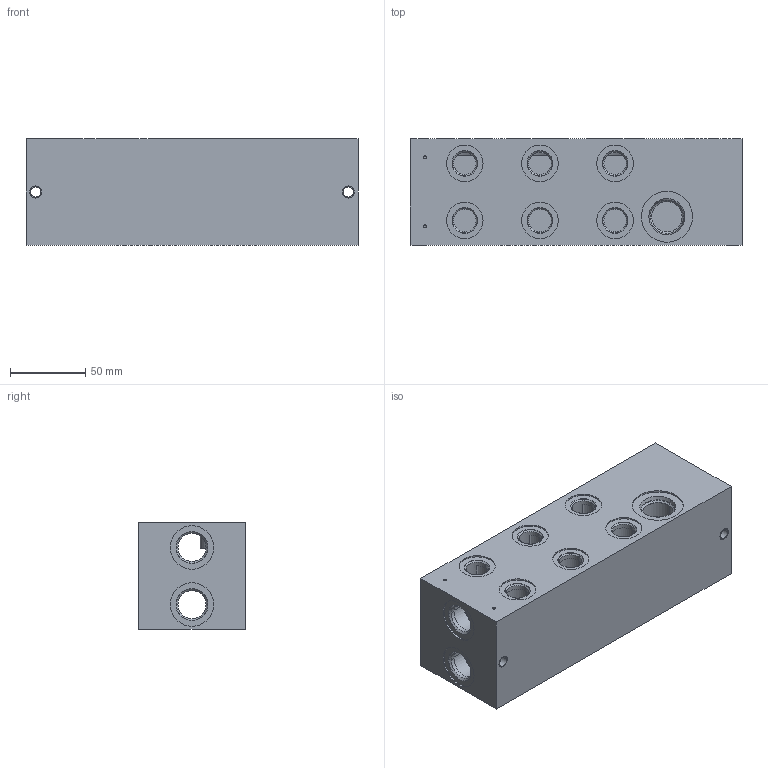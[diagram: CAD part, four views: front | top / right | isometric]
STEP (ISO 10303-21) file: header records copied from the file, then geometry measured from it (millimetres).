
FILE_DESCRIPTION((''),'2;1');
FILE_NAME('27563700','2015-11-27T',('Ahcz.brigadnik05'),(''),'PRO/ENGINEER BY PARAMETRIC TECHNOLOGY CORPORATION, 2015110','PRO/ENGINEER BY PARAMETRIC TECHNOLOGY CORPORATION, 2015110','');
FILE_SCHEMA(('AUTOMOTIVE_DESIGN { 1 0 10303 214 1 1 1 1 }'));
Length unit declared in the file: millimetre
Products named in the file (1): 27563700
Bounding box: 221 x 71 x 71 mm (x, y, z)
Volume: 374672.6 mm3; surface area: 145787.4 mm2
Topology: 1 solids, 31 shells, 271 faces, 1024 edges, 975 vertices
Faces by surface type: cylinder 178, plane 58, cone 35
Entity records: 14968 total; most frequent: CARTESIAN_POINT 2817, DIRECTION 1943, ORIENTED_EDGE 1344, PRESENTATION_STYLE_ASSIGNMENT 1089, STYLED_ITEM 1089, CURVE_STYLE 1052, EDGE_CURVE 732, AXIS2_PLACEMENT_3D 698
